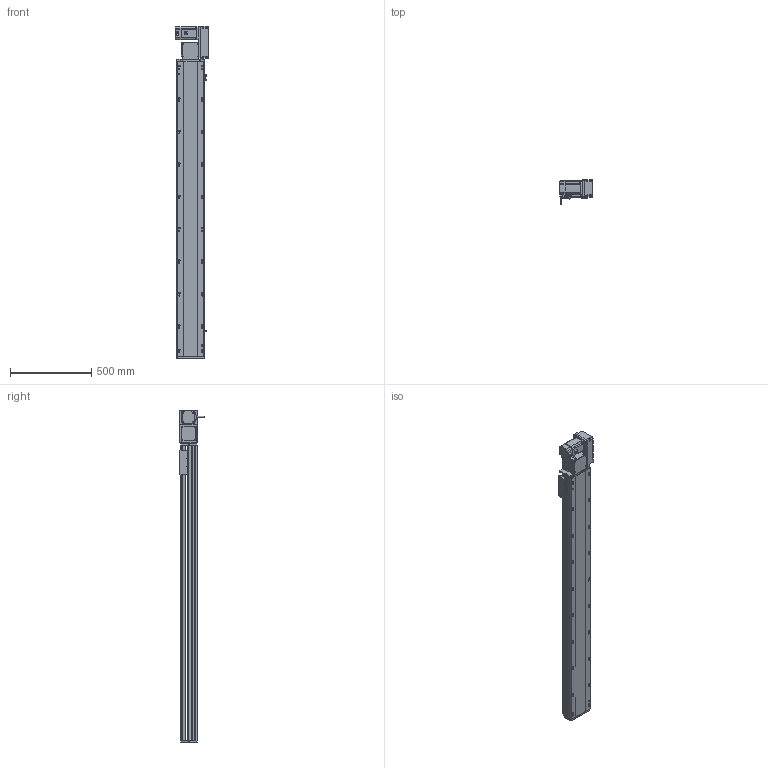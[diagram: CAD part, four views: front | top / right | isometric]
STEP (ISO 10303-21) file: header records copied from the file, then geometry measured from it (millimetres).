
FILE_DESCRIPTION (( 'STEP AP214' ), '1' );
FILE_NAME ('RTB17S-XX-1550-R-M75-C4.STEP', '2025-12-12T01:38:44', ( '' ), ( '' ), 'SwSTEP 2.0', 'SolidWorks 2018', '' );
FILE_SCHEMA (( 'AUTOMOTIVE_DESIGN' ));
Length unit declared in the file: millimetre
Products named in the file (15): RTB22S-GY-005P^RTB17S-R-々湍釱蚾饜-750W_RTB17S-XX-XX-R-M75-C4; RTB17S-XX-1550-R-M75-C4; RTB17S-L-007奻裔^RTB17S-XX-XX-R-M75-C4; RTH13-BL-012覜茼え俋离^RTB17S-賑釱_RTB17S-XX-XX-R-M75-C4; RTB22S-GY-018P^RTB17S-R-々湍釱蚾饜-750W_RTB17S-XX-XX-R-M75-C4; RTB17S-R-々湍釱蚾饜-750W^RTB17S-XX-XX-R-M75-C4; RTB22S-GY-017P^RTB17S-R-々湍釱蚾饜-750W_RTB17S-XX-XX-R-M75-C4; RTB22S-GY-008-M75--萇儂啣^RTB17S-R-々湍釱蚾饜-750W_RTB17S-XX-XX-R-M75-C4; RTB17S-賑釱^RTB17S-XX-XX-R-M75-C4; RTB17S-L-014-T20-P75--々湍釱^RTB17S-R-々湍釱蚾饜-750W_RTB17S-XX-XX-R-M75-C4; RTB17-R-011菁釱^RTB17S-XX-XX-R-M75-C4; RTB17S-L-004-賑釱^RTB17S-賑釱_RTB17S-XX-XX-R-M75-C4; EE672^RTB17S-XX-XX-R-M75-C4; RTB17S-L-001-耜醱啣^RTB17S-XX-XX-R-M75-C4; 750W萇儂^RTB17S-XX-XX-R-M75-C4
Assembly tree (17 placements, depth 3):
  RTB17S-XX-1550-R-M75-C4
    RTB17-R-011菁釱^RTB17S-XX-XX-R-M75-C4
    EE672^RTB17S-XX-XX-R-M75-C4  x3
    RTB17S-L-001-耜醱啣^RTB17S-XX-XX-R-M75-C4
    RTB17S-賑釱^RTB17S-XX-XX-R-M75-C4
      RTB17S-L-004-賑釱^RTB17S-賑釱_RTB17S-XX-XX-R-M75-C4
      RTH13-BL-012覜茼え俋离^RTB17S-賑釱_RTB17S-XX-XX-R-M75-C4
    RTB17S-L-007奻裔^RTB17S-XX-XX-R-M75-C4
    750W萇儂^RTB17S-XX-XX-R-M75-C4
    RTB17S-R-々湍釱蚾饜-750W^RTB17S-XX-XX-R-M75-C4
      RTB17S-L-014-T20-P75--々湍釱^RTB17S-R-々湍釱蚾饜-750W_RTB17S-XX-XX-R-M75-C4
      RTB22S-GY-005P^RTB17S-R-々湍釱蚾饜-750W_RTB17S-XX-XX-R-M75-C4
      RTB22S-GY-017P^RTB17S-R-々湍釱蚾饜-750W_RTB17S-XX-XX-R-M75-C4  x2
      RTB22S-GY-008-M75--萇儂啣^RTB17S-R-々湍釱蚾饜-750W_RTB17S-XX-XX-R-M75-C4
      RTB22S-GY-018P^RTB17S-R-々湍釱蚾饜-750W_RTB17S-XX-XX-R-M75-C4
Bounding box: 207.4 x 152.7 x 2049 mm (x, y, z)
Volume: 15639276.4 mm3; surface area: 2746500.1 mm2
Topology: 17 solids, 17 shells, 2137 faces, 5944 edges, 3842 vertices
Faces by surface type: plane 976, cylinder 745, bspline 294, cone 110, sphere 8, torus 4
Entity records: 60406 total; most frequent: CARTESIAN_POINT 17808, ORIENTED_EDGE 8732, DIRECTION 8132, EDGE_CURVE 4366, AXIS2_PLACEMENT_3D 2862, VERTEX_POINT 2846, LINE 2408, VECTOR 2408
